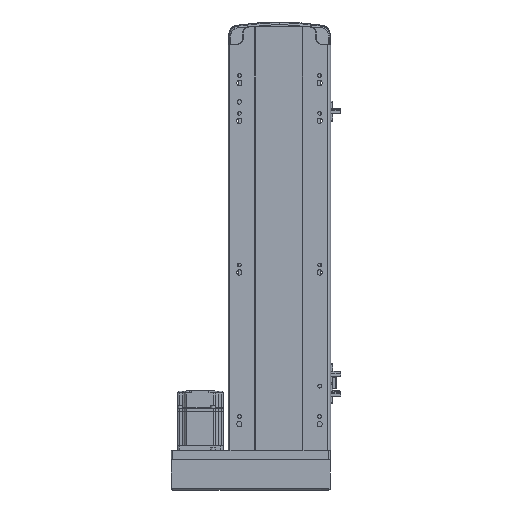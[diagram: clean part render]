
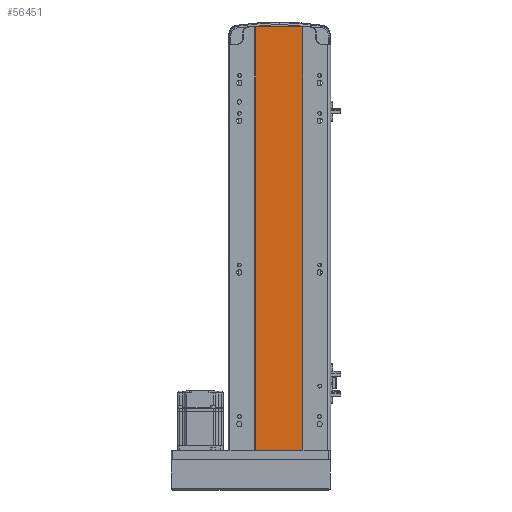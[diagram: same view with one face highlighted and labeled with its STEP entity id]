
A CAD part, front view. The second image highlights one B-rep face of the part: STEP entity #56451.
In plain terms, the highlighted planar face has unit normal (0, -1, 0).
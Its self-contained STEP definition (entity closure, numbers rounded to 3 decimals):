
#705 = VECTOR ( 'NONE', #10356, 1000. ) ;
#2520 = PLANE ( 'NONE',  #13908 ) ;
#5502 = LINE ( 'NONE', #49251, #705 ) ;
#9766 = CARTESIAN_POINT ( 'NONE',  ( -32., 1., 559. ) ) ;
#10356 = DIRECTION ( 'NONE',  ( 0., 0., -1. ) ) ;
#12590 = EDGE_LOOP ( 'NONE', ( #37995, #22652, #35300, #32245 ) ) ;
#13539 = EDGE_CURVE ( 'NONE', #16940, #43727, #22200, .T. ) ;
#13908 = AXIS2_PLACEMENT_3D ( 'NONE', #33714, #15734, #46217 ) ;
#15734 = DIRECTION ( 'NONE',  ( 0., 1., 0. ) ) ;
#15981 = LINE ( 'NONE', #21381, #49599 ) ;
#16940 = VERTEX_POINT ( 'NONE', #21277 ) ;
#18801 = CARTESIAN_POINT ( 'NONE',  ( -32., 1., 0. ) ) ;
#20710 = VERTEX_POINT ( 'NONE', #9766 ) ;
#21277 = CARTESIAN_POINT ( 'NONE',  ( -32., 1., 0. ) ) ;
#21381 = CARTESIAN_POINT ( 'NONE',  ( -32., 1., 559. ) ) ;
#22200 = LINE ( 'NONE', #18801, #48309 ) ;
#22652 = ORIENTED_EDGE ( 'NONE', *, *, #24746, .F. ) ;
#24746 = EDGE_CURVE ( 'NONE', #56546, #43727, #27553, .T. ) ;
#27553 = LINE ( 'NONE', #41442, #28908 ) ;
#28908 = VECTOR ( 'NONE', #54861, 1000. ) ;
#32245 = ORIENTED_EDGE ( 'NONE', *, *, #43917, .T. ) ;
#33714 = CARTESIAN_POINT ( 'NONE',  ( -32., 1., 559. ) ) ;
#35300 = ORIENTED_EDGE ( 'NONE', *, *, #54212, .F. ) ;
#37995 = ORIENTED_EDGE ( 'NONE', *, *, #13539, .T. ) ;
#41442 = CARTESIAN_POINT ( 'NONE',  ( 30., 1., 559. ) ) ;
#43508 = CARTESIAN_POINT ( 'NONE',  ( 30., 1., 0. ) ) ;
#43727 = VERTEX_POINT ( 'NONE', #43508 ) ;
#43917 = EDGE_CURVE ( 'NONE', #20710, #16940, #5502, .T. ) ;
#44725 = DIRECTION ( 'NONE',  ( 1., 0., 0. ) ) ;
#44970 = DIRECTION ( 'NONE',  ( 1., 0., 0. ) ) ;
#45977 = FACE_OUTER_BOUND ( 'NONE', #12590, .T. ) ;
#46217 = DIRECTION ( 'NONE',  ( -1., 0., 0. ) ) ;
#48309 = VECTOR ( 'NONE', #44725, 1000. ) ;
#49251 = CARTESIAN_POINT ( 'NONE',  ( -32., 1., 559. ) ) ;
#49599 = VECTOR ( 'NONE', #44970, 1000. ) ;
#54212 = EDGE_CURVE ( 'NONE', #20710, #56546, #15981, .T. ) ;
#54861 = DIRECTION ( 'NONE',  ( 0., 0., -1. ) ) ;
#55025 = CARTESIAN_POINT ( 'NONE',  ( 30., 1., 559. ) ) ;
#56451 = ADVANCED_FACE ( 'NONE', ( #45977 ), #2520, .F. ) ;
#56546 = VERTEX_POINT ( 'NONE', #55025 ) ;
